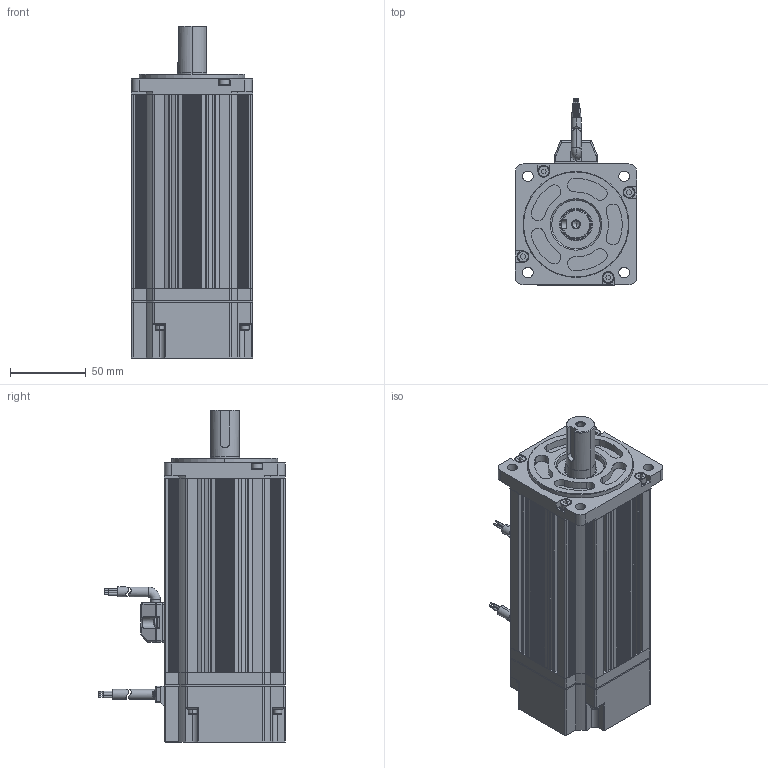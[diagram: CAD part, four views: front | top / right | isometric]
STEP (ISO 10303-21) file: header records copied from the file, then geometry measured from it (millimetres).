
FILE_DESCRIPTION (( 'STEP AP203' ), '1' );
FILE_NAME ('VM5-L08A-1R030-D2.STEP', '2019-03-15T10:44:39', ( 'ZSM' ), ( '' ), 'SwSTEP 2.0', 'SolidWorks 2014', '' );
FILE_SCHEMA (( 'CONFIG_CONTROL_DESIGN' ));
Length unit declared in the file: millimetre
Products named in the file (24): D06B110A; GB T848-2002 ±2.5; D08B102D; D08B106D; GB 845-1985[ﾊｮﾗﾖｲﾛﾅﾌﾍｷﾗﾔｹ･ﾂﾝｶ､-CﾐﾍST2.5｡ﾁ8]; D08B1004C_D08B1004C4; 萇埭盄; GB T848-2002 ±3; D08B102E; 172167-1; GB／T 818-2000[十字槽盘头螺钉M3×6]; D08B102F; VM5-L08A-1R030-D2; GB T 848-2002 ±4; D06B106B; GB／T70．1-2000内六角圆柱头螺钉M4×12; D06B110B; 儂褲 D08B101B4-128.5_D08B101B2; GB／T 70．1-2000[内六角圆柱头螺钉M3×18]; 15pin萇擢; D08B1003C_D08B1003C4; D06B106A; 172163-1; D08B103C_D08B103C4
Assembly tree (48 placements, depth 3):
  VM5-L08A-1R030-D2
    D08B1003C_D08B1003C4
      儂褲 D08B101B4-128.5_D08B101B2
    D08B1004C_D08B1004C4
      D08B103C_D08B103C4
      D08B102D
    D08B102E
    D08B102F
    D06B106B
    D06B110B
    172163-1
      15pin萇擢
    GB T848-2002 ±2.5  x2
    GB 845-1985[ﾊｮﾗﾖｲﾛﾅﾌﾍｷﾗﾔｹ･ﾂﾝｶ､-CﾐﾍST2.5｡ﾁ8]  x2
    GB T848-2002 ±3  x10
    GB／T 818-2000[十字槽盘头螺钉M3×6]  x2
    GB T 848-2002 ±4  x4
    GB／T70．1-2000内六角圆柱头螺钉M4×12  x8
    GB／T 70．1-2000[内六角圆柱头螺钉M3×18]  x4
    D06B106A
    D06B110A
    D08B106D
    172167-1
      萇埭盄
Bounding box: 80 x 123.5 x 219.5 mm (x, y, z)
Volume: 308711.8 mm3; surface area: 196449.8 mm2
Topology: 46 solids, 46 shells, 2456 faces, 6506 edges, 4203 vertices
Faces by surface type: cylinder 1124, plane 1028, cone 136, torus 76, bspline 60, sphere 32
Entity records: 73124 total; most frequent: CARTESIAN_POINT 14801, DIRECTION 11889, ORIENTED_EDGE 11534, EDGE_CURVE 5767, AXIS2_PLACEMENT_3D 4281, VERTEX_POINT 3757, VECTOR 3327, LINE 3327
